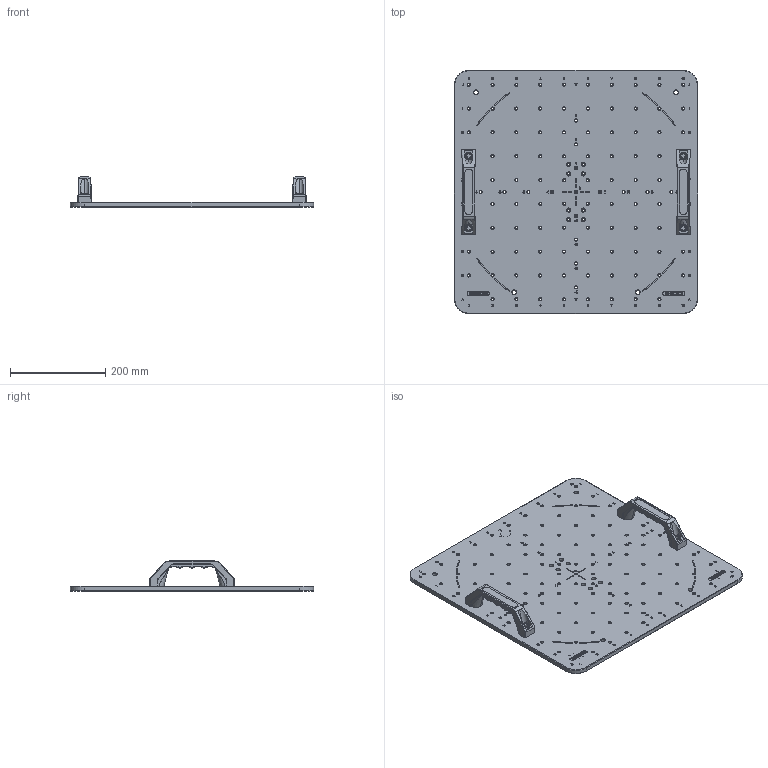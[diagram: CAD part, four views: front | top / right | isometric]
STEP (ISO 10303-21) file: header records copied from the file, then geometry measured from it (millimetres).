
FILE_DESCRIPTION(/* description */ (''),/* implementation_level */ '2;1');
FILE_NAME(/* name */ 'EQ500 M6 STANDARD.stp',/* time_stamp */ '2021-02-17T09:17:15+00:00',/* author */ (''),/* organization */ (''),/* preprocessor_version */ 'ST-DEVELOPER v16.7',/* originating_system */ 'SIEMENS PLM Software NX 1942',/* authorisation */ '');
FILE_SCHEMA (('AUTOMOTIVE_DESIGN { 1 0 10303 214 3 1 1 1 }'));
Products named in the file (1): jh1457B8CC4Bm5ex
Bounding box: 510 x 510 x 63.2 mm (x, y, z)
Volume: 2727601.3 mm3; surface area: 616240.6 mm2
Topology: 18 solids, 18 shells, 1668 faces, 4225 edges, 2763 vertices
Faces by surface type: plane 775, cylinder 432, cone 186, extrusion 151, bspline 100, torus 24
Full cylindrical faces by diameter (mm): 3.4 x6, 4 x6, 4.5 x6, 5.2 x110, 5.5 x8, 6.9 x4, 7.89 x6, 8 x4, 9 x12, 13 x4, 21.5 x3, 22 x3, 42 x3, 43 x3
Entity records: 62753 total; most frequent: CARTESIAN_POINT 22929, ORIENTED_EDGE 7604, DIRECTION 6261, EDGE_CURVE 3802, VERTEX_POINT 2722, EDGE_LOOP 2486, AXIS2_PLACEMENT_3D 2416, B_SPLINE_CURVE_WITH_KNOTS 1677
